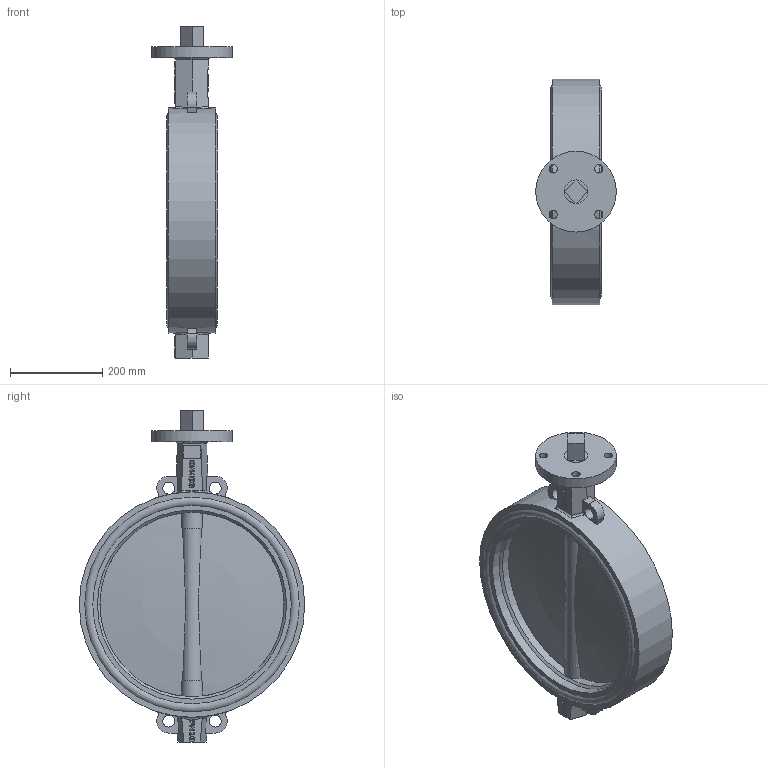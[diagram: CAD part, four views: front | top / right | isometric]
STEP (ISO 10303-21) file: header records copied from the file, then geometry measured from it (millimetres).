
FILE_DESCRIPTION(('STEP AP242'), '1');
FILE_NAME('Ïîâîðîòíûé çàòâîð ïîä ýëåêòðîïðèâîä', '', ('UNSPECIFIED'), ('UNSPECIFIED'), 'C3D Converter', 'C3D Toolkit', '');
FILE_SCHEMA(('AP242_MANAGED_MODEL_BASED_3D_ENGINEERING_MIM_LF { 1 0 10303 442 1 1 4 }'));
Length unit declared in the file: millimetre
Products named in the file (6): П
Assembly tree (6 placements, depth 2):
  (unnamed)
    (unnamed)
    П  x2
    (unnamed)
    (unnamed)
    (unnamed)
Bounding box: 175 x 489 x 720 mm (x, y, z)
Volume: 10900505.3 mm3; surface area: 1426535.4 mm2
Topology: 6 solids, 6 shells, 392 faces, 1032 edges, 678 vertices
Faces by surface type: plane 196, extrusion 119, cylinder 55, bspline 8, torus 6, cone 4, sphere 4
Full cylindrical faces by diameter (mm): 11.421 x1, 18 x4, 26 x4, 36 x6, 48.45 x4, 50.912 x5, 175 x1, 400 x1, 410.2 x2, 430.6 x2, 447.9 x4, 465.2 x4, 489 x1
Entity records: 17234 total; most frequent: CARTESIAN_POINT 6171, ORIENTED_EDGE 1956, DIRECTION 1452, EDGE_CURVE 978, VERTEX_POINT 673, VECTOR 636, LINE 517, EDGE_LOOP 491
